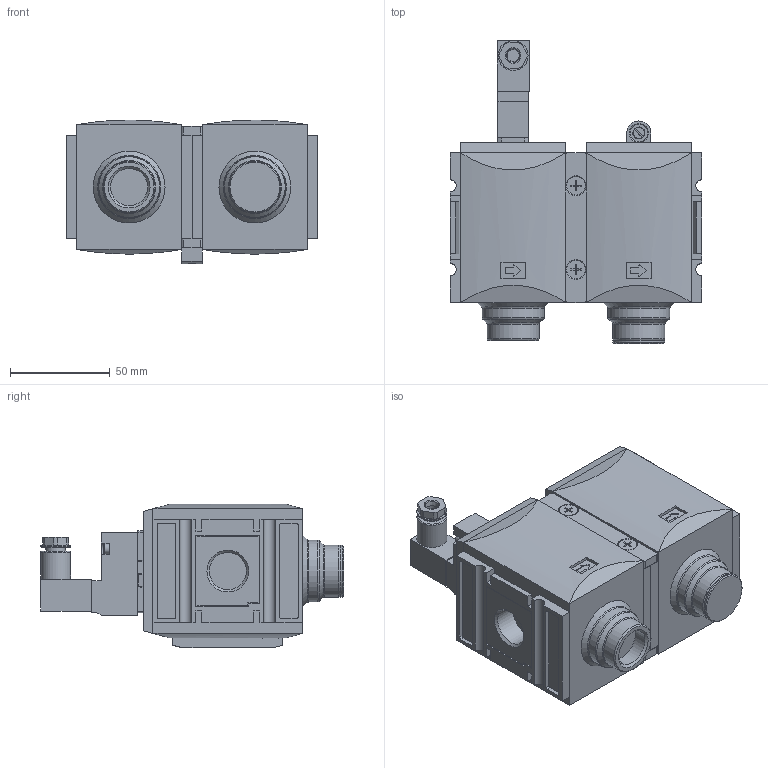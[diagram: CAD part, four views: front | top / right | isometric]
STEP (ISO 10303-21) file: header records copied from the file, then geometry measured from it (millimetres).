
FILE_DESCRIPTION( ( 'STEP AP214' ), ' ' );
FILE_NAME( 'p:/temp/worker_4606/5616_2768/app_51_02017011215401006942397192d056f_000000_00_00_000000/format_1/FU 954.stp', '2017-01-12T14:40:15', ( '' ), ( '' ), ' ', 'PARTsolutions', ' ' );
FILE_SCHEMA( ( 'AUTOMOTIVE_DESIGN { 1 0 10303 214 1 1 1 1 }' ) );
Length unit declared in the file: millimetre
Products named in the file (8): FU 954; _FU 964-1; _FU 964-5; _FU 934; _KP 200-1; _KP 200-3; _KP 200-2; _KP 200-4
Assembly tree (8 placements, depth 2):
  FU 954
    _FU 964-1
    _FU 964-5
    _FU 934
    _KP 200-1
    _KP 200-3  x2
    _KP 200-2
    _KP 200-4
Bounding box: 126 x 151.89 x 72.05 mm (x, y, z)
Volume: 661421.2 mm3; surface area: 91922.6 mm2
Topology: 8 solids, 8 shells, 713 faces, 1745 edges, 1119 vertices
Faces by surface type: plane 485, cylinder 171, cone 37, torus 19, sphere 1
Full cylindrical faces by diameter (mm): 2 x5, 2.459 x4, 3 x2, 3.2 x2, 4.509 x2, 4.9 x1, 5 x2, 5.2 x4, 5.5 x3, 6 x1, 8.8 x1, 9.3 x2, 10 x1, 15 x2, 18.631 x5, 25 x1, 26 x3, 31 x2, 42 x1, 42.2 x2
Entity records: 25094 total; most frequent: CARTESIAN_POINT 3443, DIRECTION 3350, ORIENTED_EDGE 3162, EDGE_CURVE 1581, LINE 1170, VECTOR 1170, AXIS2_PLACEMENT_3D 1090, VERTEX_POINT 1073
